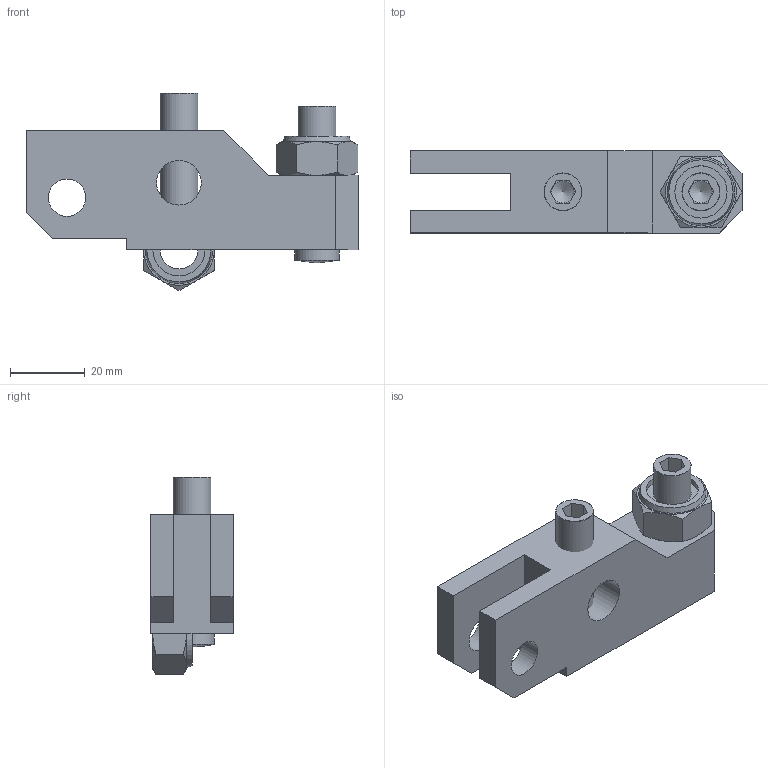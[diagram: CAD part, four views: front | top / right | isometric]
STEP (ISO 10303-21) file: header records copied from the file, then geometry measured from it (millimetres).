
FILE_DESCRIPTION( ( '' ), '1' );
FILE_NAME( 'W:/Catalogue/JL5H/JL5H52_ClampArm/JL5H52_ClampArm.stp', '2008-05-26T02:14:56', ( '機械事業部産業機器グループ' ), ( '豊和工業株式会社' ), 'XStep 1.0', ' ', ' ' );
FILE_SCHEMA( ( 'CONFIG_CONTROL_DESIGN' ) );
Length unit declared in the file: millimetre
Products named in the file (4): Assem1; 1; 2; 3
Bounding box: 89 x 22 x 52.97 mm (x, y, z)
Volume: 88830.4 mm3; surface area: 29944.9 mm2
Topology: 6 solids, 6 shells, 138 faces, 322 edges, 202 vertices
Faces by surface type: plane 86, cone 30, cylinder 20, sphere 2
Full cylindrical faces by diameter (mm): 6 x2, 10 x4, 10.106 x2, 10.2 x4, 12 x4, 12.5 x2, 14 x2
Entity records: 2132 total; most frequent: CARTESIAN_POINT 456, DIRECTION 304, ORIENTED_EDGE 284, EDGE_CURVE 142, AXIS2_PLACEMENT_3D 113, VERTEX_POINT 97, EDGE_LOOP 96, FACE_OUTER_BOUND 79
